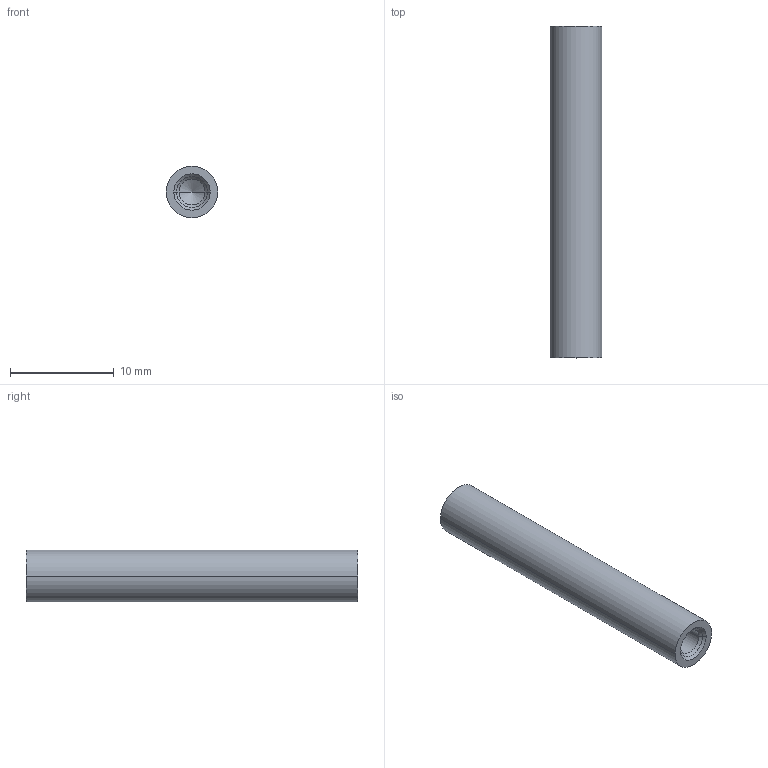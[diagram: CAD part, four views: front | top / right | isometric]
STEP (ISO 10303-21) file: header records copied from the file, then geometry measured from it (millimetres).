
FILE_DESCRIPTION((''),'2;1');
FILE_NAME('32MMAXIS','2022-08-24T09:15:48',('domen.bizjak'),('Audax d.o.o.'),'CREO PARAMETRIC BY PTC INC, 2021184','CREO PARAMETRIC BY PTC INC, 2021184','');
FILE_SCHEMA(('AP242_MANAGED_MODEL_BASED_3D_ENGINEERING_MIM_LF { 1 0 10303 442 1 1 4 }'));
Length unit declared in the file: millimetre
Products named in the file (1): 32MMAXIS
Bounding box: 5 x 32 x 5 mm (x, y, z)
Volume: 589.2 mm3; surface area: 656 mm2
Topology: 1 solids, 2 shells, 13 faces, 32 edges, 25 vertices
Faces by surface type: cylinder 6, cone 4, plane 3
Entity records: 1123 total; most frequent: COLOUR_RGB 319, DIRECTION 102, CARTESIAN_POINT 80, ORIENTED_EDGE 48, AXIS2_PLACEMENT_3D 44, PRESENTATION_STYLE_ASSIGNMENT 38, STYLED_ITEM 38, PROPERTY_DEFINITION 35
